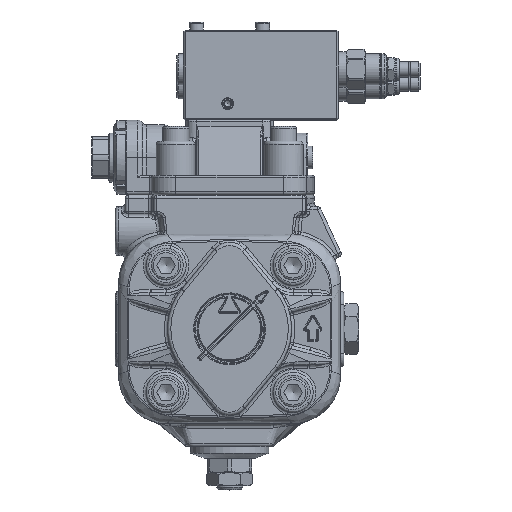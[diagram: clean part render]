
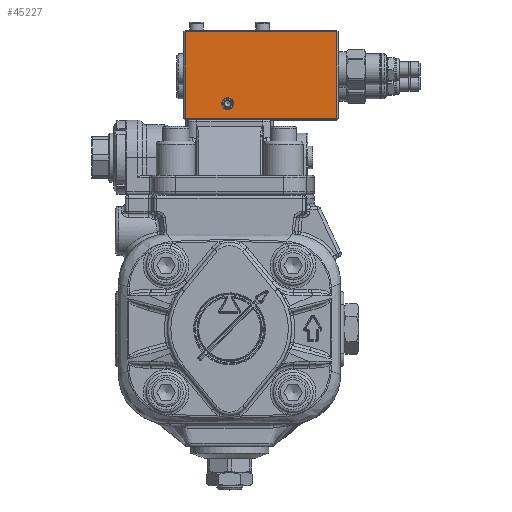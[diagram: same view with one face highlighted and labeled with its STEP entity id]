
A CAD part, top view. The second image highlights one B-rep face of the part: STEP entity #45227.
In plain terms, the highlighted planar face has unit normal (0, 0, 1).
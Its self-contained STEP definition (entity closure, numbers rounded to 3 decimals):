
#720=FACE_BOUND('',#10000,.T.);
#3641=CIRCLE('',#49713,3.6);
#7287=FACE_OUTER_BOUND('',#9999,.T.);
#9999=EDGE_LOOP('',(#37679,#37680,#37681,#37682));
#10000=EDGE_LOOP('',(#37683));
#13389=LINE('',#92941,#15775);
#13390=LINE('',#92943,#15776);
#13391=LINE('',#92945,#15777);
#13392=LINE('',#92946,#15778);
#15775=VECTOR('',#60812,10.);
#15776=VECTOR('',#60813,10.);
#15777=VECTOR('',#60814,10.);
#15778=VECTOR('',#60815,10.);
#19563=VERTEX_POINT('',#92939);
#19564=VERTEX_POINT('',#92940);
#19565=VERTEX_POINT('',#92942);
#19566=VERTEX_POINT('',#92944);
#19567=VERTEX_POINT('',#92947);
#25748=EDGE_CURVE('',#19563,#19564,#13389,.T.);
#25749=EDGE_CURVE('',#19565,#19563,#13390,.T.);
#25750=EDGE_CURVE('',#19566,#19565,#13391,.T.);
#25751=EDGE_CURVE('',#19564,#19566,#13392,.T.);
#25752=EDGE_CURVE('',#19567,#19567,#3641,.T.);
#37679=ORIENTED_EDGE('',*,*,#25748,.F.);
#37680=ORIENTED_EDGE('',*,*,#25749,.F.);
#37681=ORIENTED_EDGE('',*,*,#25750,.F.);
#37682=ORIENTED_EDGE('',*,*,#25751,.F.);
#37683=ORIENTED_EDGE('',*,*,#25752,.T.);
#40195=PLANE('',#49712);
#45227=ADVANCED_FACE('',(#7287,#720),#40195,.T.);
#49712=AXIS2_PLACEMENT_3D('',#92938,#60810,#60811);
#49713=AXIS2_PLACEMENT_3D('',#92948,#60816,#60817);
#60810=DIRECTION('center_axis',(0.,0.,
1.));
#60811=DIRECTION('ref_axis',(0.,1.,0.));
#60812=DIRECTION('',(1.,0.,0.));
#60813=DIRECTION('',(0.,1.,0.));
#60814=DIRECTION('',(-1.,0.,0.));
#60815=DIRECTION('',(0.,-1.,0.));
#60816=DIRECTION('center_axis',(0.,0.,
-1.));
#60817=DIRECTION('ref_axis',(1.,0.,0.));
#92938=CARTESIAN_POINT('Origin',(-34.79,170.996,41.252));
#92939=CARTESIAN_POINT('',(-33.79,169.996,41.252));
#92940=CARTESIAN_POINT('',(59.21,169.996,41.252));
#92941=CARTESIAN_POINT('',(-11.04,169.996,41.252));
#92942=CARTESIAN_POINT('',(-33.79,116.996,41.252));
#92943=CARTESIAN_POINT('',(-33.79,170.996,41.252));
#92944=CARTESIAN_POINT('',(59.21,116.996,41.252));
#92945=CARTESIAN_POINT('',(-11.04,116.996,41.252));
#92946=CARTESIAN_POINT('',(59.21,170.996,41.252));
#92947=CARTESIAN_POINT('',(-11.39,125.996,41.252));
#92948=CARTESIAN_POINT('Origin',(-7.79,125.996,41.252));
